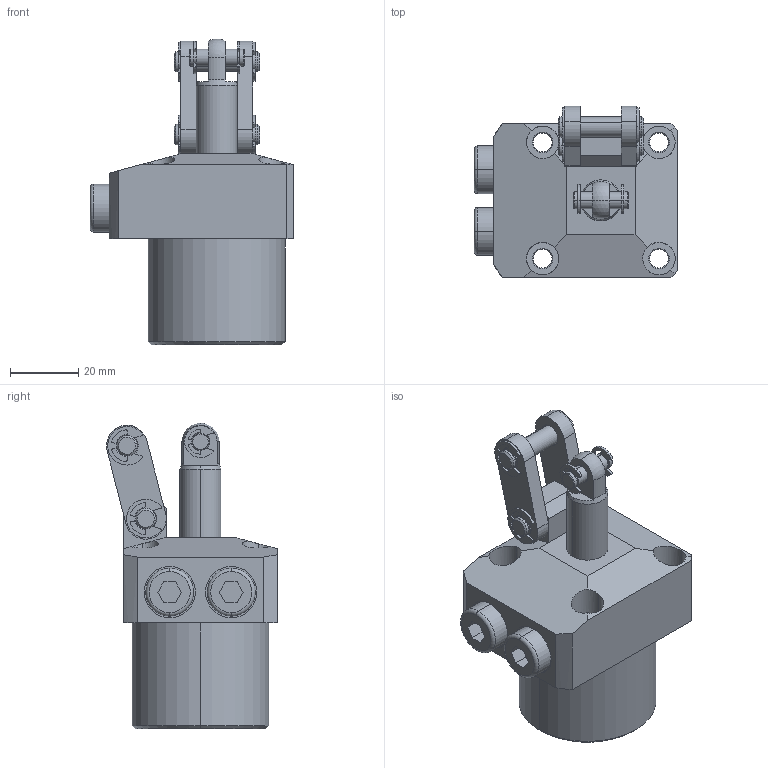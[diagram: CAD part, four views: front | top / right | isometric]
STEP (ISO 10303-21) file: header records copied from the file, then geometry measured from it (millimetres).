
FILE_DESCRIPTION (( 'STEP AP214' ), '1' );
FILE_NAME ('4171 221 L.STEP', '2017-10-17T09:00:26', ( '' ), ( '' ), 'SwSTEP 2.0', 'SolidWorks 2015', '' );
FILE_SCHEMA (( 'AUTOMOTIVE_DESIGN' ));
Length unit declared in the file: millimetre
Products named in the file (8): PIN; PROD; BODY_4171 221 L; 4171 221 L; (type e)_is_IS 3075(Part3) - 5; (type e)_is_IS 3075(Part3) - 4; PIN1; PLATE
Assembly tree (13 placements, depth 2):
  4171 221 L
    BODY_4171 221 L
    PROD
    PIN  x2
    PLATE  x2
    PIN1
    (type e)_is_IS 3075(Part3) - 4  x2
    (type e)_is_IS 3075(Part3) - 5  x4
Bounding box: 59.5 x 49.95 x 89.45 mm (x, y, z)
Volume: 98270.9 mm3; surface area: 23419.7 mm2
Topology: 13 solids, 13 shells, 403 faces, 1001 edges, 637 vertices
Faces by surface type: cylinder 198, plane 131, cone 68, torus 4, sphere 2
Entity records: 8270 total; most frequent: CARTESIAN_POINT 1551, DIRECTION 1426, ORIENTED_EDGE 1264, EDGE_CURVE 632, AXIS2_PLACEMENT_3D 556, VERTEX_POINT 401, LINE 314, VECTOR 314
